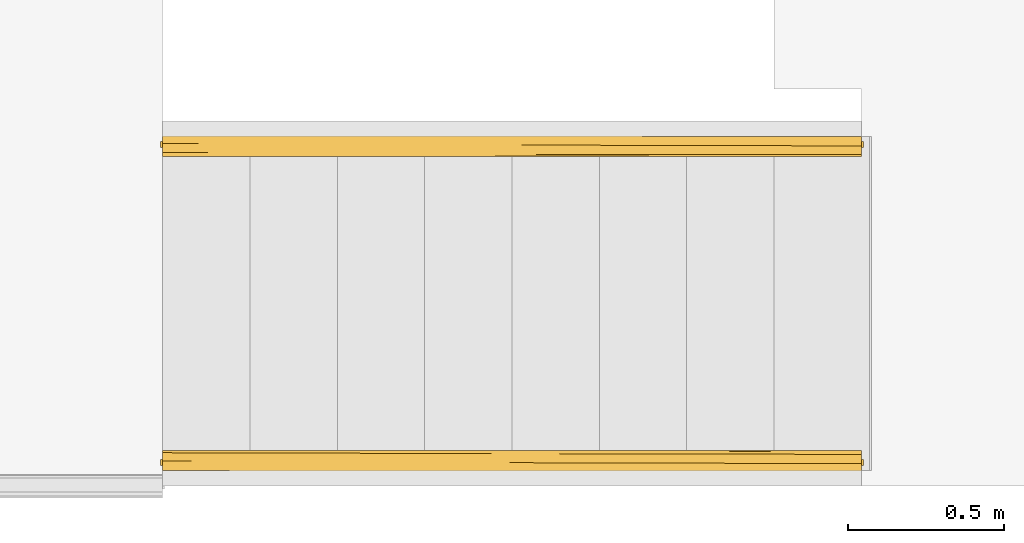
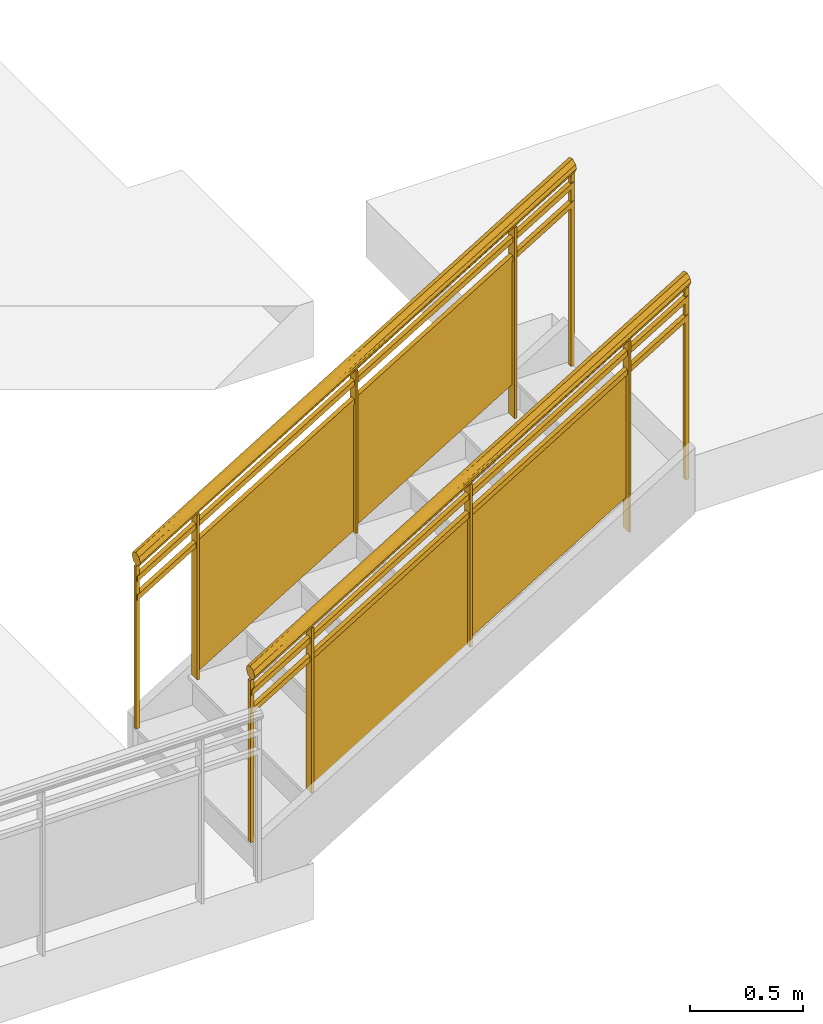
# One storey, part 4 of 4: 2 railings, 1 element without a shape of its own.
"""IFC2X3 building model written with IfcOpenShell, lengths in feet."""

from ifc_helpers import new_model, entity, si_unit, converted_unit, derived_unit, direction, frame, origin, place, context, subcontext, project, spatial, faceted_brep, material, material_list, element, aggregate, save


model = new_model("IFC2X3")

# Units and contexts
model_context = context("Model", 3, precision=0.0001, world=origin(), true_north=direction((6.12303176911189e-17, 1.0)))
body_context = subcontext(model_context, "Body", "Model", "MODEL_VIEW")
ifc_project = project(units=[converted_unit("LENGTHUNIT", "FOOT", entity("IfcRatioMeasure", 0.3048), si_unit("LENGTHUNIT", "METRE"), dimensions=[1, 0, 0, 0, 0, 0, 0]), converted_unit("AREAUNIT", "SQUARE FOOT", entity("IfcRatioMeasure", 0.09290304), si_unit("AREAUNIT", "SQUARE_METRE"), dimensions=[2, 0, 0, 0, 0, 0, 0]), converted_unit("VOLUMEUNIT", "CUBIC FOOT", entity("IfcRatioMeasure", 0.028316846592), si_unit("VOLUMEUNIT", "CUBIC_METRE"), dimensions=[3, 0, 0, 0, 0, 0, 0]), converted_unit("PLANEANGLEUNIT", "DEGREE", entity("IfcRatioMeasure", 0.0174532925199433), si_unit("PLANEANGLEUNIT", "RADIAN"), dimensions=[0, 0, 0, 0, 0, 0, 0]), si_unit("MASSUNIT", "GRAM", prefix="KILO"), derived_unit("MASSDENSITYUNIT", [(si_unit("MASSUNIT", "GRAM", prefix="KILO"), 1), (si_unit("LENGTHUNIT", "METRE"), -3)]), si_unit("TIMEUNIT", "SECOND"), si_unit("FREQUENCYUNIT", "HERTZ"), si_unit("THERMODYNAMICTEMPERATUREUNIT", "DEGREE_CELSIUS"), derived_unit("THERMALTRANSMITTANCEUNIT", [(si_unit("MASSUNIT", "GRAM", prefix="KILO"), 1), (si_unit("THERMODYNAMICTEMPERATUREUNIT", "KELVIN"), -1), (si_unit("TIMEUNIT", "SECOND"), -3)]), derived_unit("VOLUMETRICFLOWRATEUNIT", [(si_unit("LENGTHUNIT", "METRE"), 3), (si_unit("TIMEUNIT", "SECOND"), -1)]), si_unit("ELECTRICCURRENTUNIT", "AMPERE"), si_unit("ELECTRICVOLTAGEUNIT", "VOLT"), si_unit("POWERUNIT", "WATT"), si_unit("FORCEUNIT", "NEWTON"), si_unit("ILLUMINANCEUNIT", "LUX"), si_unit("LUMINOUSFLUXUNIT", "LUMEN"), si_unit("LUMINOUSINTENSITYUNIT", "CANDELA"), derived_unit("USERDEFINED", [(si_unit("MASSUNIT", "GRAM", prefix="KILO"), -1), (si_unit("LENGTHUNIT", "METRE"), -2), (si_unit("TIMEUNIT", "SECOND"), 3), (si_unit("LUMINOUSFLUXUNIT", "LUMEN"), 1)]), derived_unit("LINEARVELOCITYUNIT", [(si_unit("LENGTHUNIT", "METRE"), 1), (si_unit("TIMEUNIT", "SECOND"), -1)]), si_unit("PRESSUREUNIT", "PASCAL"), derived_unit("USERDEFINED", [(si_unit("LENGTHUNIT", "METRE"), -2), (si_unit("MASSUNIT", "GRAM", prefix="KILO"), 1), (si_unit("TIMEUNIT", "SECOND"), -2)])], contexts=[model_context])

# Site, building, storey
site_placement = place(None, origin())
site = spatial("IfcSite", under=ifc_project, at=site_placement, Name="Default", CompositionType="ELEMENT")
building_placement = place(site_placement, origin())
building = spatial("IfcBuilding", under=site, at=building_placement, CompositionType="ELEMENT")
storey_placement = place(building_placement, frame((0.0, 0.0, 35.0)))
storey = spatial("IfcBuildingStorey", under=building, at=storey_placement, Name="L 6", CompositionType="ELEMENT", Elevation=34.9999999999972)

# Stair, railings
stair_placement = place(storey_placement, origin())
stair = element("IfcStair", 1, at=stair_placement, inside=storey, Name="Assembled Stair:Stair", ObjectType="Assembled Stair:7\" max riser 11\" tread", ShapeType="NOTDEFINED")
ifc_material_1 = material(Name="Glass")
ifc_material_2 = material(Name="alum - color")
ifc_material_list_1 = material_list([ifc_material_1, ifc_material_2])
railing_1_placement = place(stair_placement, frame((-29.0126627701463, -11.8838750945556, 0.55555555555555)))
railing_1 = element("IfcRailing", 2, at=railing_1_placement, material=ifc_material_list_1, Name="Railing:Glass Panel - Bottom Fill", ObjectType="Railing:Glass Panel - Bottom Fill", PredefinedType="NOTDEFINED", context=body_context, shape_type="Brep", body=[
    faceted_brep([(1.04166666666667, 0.213567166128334, 3.50850232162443), (1.04166666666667, 0.0469004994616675, 3.50850232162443), (1.04166666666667, 0.0469004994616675, 0.555555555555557), (1.04166666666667, 0.213567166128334, 0.555555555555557), (1.0, 0.213567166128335, 3.4832497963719), (1.0, 0.213567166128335, 0.555555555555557), (1.0, 0.0469004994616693, 3.4832497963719), (1.0, 0.0469004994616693, 0.555555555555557)], [[[0, 1, 2, 3]], [[4, 0, 3, 5]], [[6, 4, 5, 7]], [[1, 6, 7, 2]], [[1, 0, 4, 6]], [[3, 2, 7, 5]]]),
    faceted_brep([(3.6875, 0.108793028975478, 2.25252525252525), (3.6875, 0.108793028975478, 4.50683388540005), (1.02083333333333, 0.10879302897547, 2.89067226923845), (1.02083333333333, 0.10879302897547, 0.636363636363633), (3.6875, 0.129626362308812, 2.25252525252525), (1.02083333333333, 0.129626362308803, 0.636363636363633), (1.02083333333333, 0.129626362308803, 2.89067226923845), (3.6875, 0.129626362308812, 4.50683388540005)], [[[0, 1, 2, 3]], [[4, 5, 6, 7]], [[1, 0, 4, 7]], [[2, 1, 7, 6]], [[3, 2, 6, 5]], [[0, 3, 5, 4]]]),
    faceted_brep([(3.70833333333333, 0.213567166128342, 5.12466393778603), (3.70833333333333, 0.0469004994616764, 5.12466393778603), (3.70833333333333, 0.0469004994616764, 2.22222222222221), (3.70833333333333, 0.213567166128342, 2.22222222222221), (3.66666666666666, 0.213567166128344, 5.09941141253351), (3.66666666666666, 0.213567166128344, 2.22222222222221), (3.66666666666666, 0.0469004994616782, 5.09941141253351), (3.66666666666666, 0.0469004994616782, 2.22222222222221)], [[[0, 1, 2, 3]], [[4, 0, 3, 5]], [[6, 4, 5, 7]], [[1, 6, 7, 2]], [[1, 0, 4, 6]], [[3, 2, 7, 5]]]),
    faceted_brep([(6.35416666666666, 0.108793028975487, 3.91919191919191), (6.35416666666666, 0.108793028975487, 6.12299550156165), (3.6875, 0.108793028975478, 4.50683388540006), (3.6875, 0.108793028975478, 2.30303030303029), (6.35416666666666, 0.129626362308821, 3.91919191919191), (3.6875, 0.129626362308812, 2.30303030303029), (3.6875, 0.129626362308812, 4.50683388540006), (6.35416666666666, 0.129626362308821, 6.12299550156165)], [[[0, 1, 2, 3]], [[4, 5, 6, 7]], [[1, 0, 4, 7]], [[2, 1, 7, 6]], [[3, 2, 6, 5]], [[0, 3, 5, 4]]]),
    faceted_brep([(6.375, 0.21356716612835, 6.74082555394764), (6.375, 0.0469004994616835, 6.74082555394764), (6.375, 0.0469004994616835, 3.33333333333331), (6.375, 0.21356716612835, 3.33333333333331), (6.33333333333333, 0.213567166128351, 6.71557302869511), (6.33333333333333, 0.213567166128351, 3.33333333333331), (6.33333333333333, 0.0469004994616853, 6.71557302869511), (6.33333333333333, 0.0469004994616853, 3.33333333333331)], [[[0, 1, 2, 3]], [[4, 0, 3, 5]], [[6, 4, 5, 7]], [[1, 6, 7, 2]], [[1, 0, 4, 6]], [[3, 2, 7, 5]]]),
    faceted_brep([(0.0625, 0.161483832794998, 2.91506797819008), (0.0625, 0.0989838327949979, 2.91506797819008), (0.0625, 0.0989838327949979, 0.0), (0.0625, 0.161483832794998, 0.0), (0.0, 0.161483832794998, 2.87718919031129), (0.0, 0.161483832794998, 0.0), (0.0, 0.0989838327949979, 2.87718919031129), (0.0, 0.0989838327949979, 0.0)], [[[0, 1, 2, 3]], [[4, 0, 3, 5]], [[6, 4, 5, 7]], [[1, 6, 7, 2]], [[1, 0, 4, 6]], [[3, 2, 7, 5]]]),
    faceted_brep([(7.375, 0.161483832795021, 7.34688616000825), (7.375, 0.098983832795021, 7.34688616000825), (7.375, 0.098983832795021, 3.88888888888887), (7.375, 0.161483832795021, 3.88888888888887), (7.3125, 0.161483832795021, 7.30900737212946), (7.3125, 0.161483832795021, 3.88888888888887), (7.3125, 0.098983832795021, 7.30900737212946), (7.3125, 0.098983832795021, 3.88888888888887)], [[[0, 1, 2, 3]], [[4, 0, 3, 5]], [[6, 4, 5, 7]], [[1, 6, 7, 2]], [[1, 0, 4, 6]], [[3, 2, 7, 5]]]),
    faceted_brep([(7.35416666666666, 0.171900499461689, 7.15983278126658), (7.35416666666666, 0.0885671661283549, 7.15983278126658), (7.35416666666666, 0.0885671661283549, 7.06238944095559), (7.35416666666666, 0.171900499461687, 7.06238944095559), (0.0208333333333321, 0.171900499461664, 2.71538833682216), (0.0208333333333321, 0.171900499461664, 2.61794499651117), (0.0208333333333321, 0.08856716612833, 2.61794499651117), (0.0208333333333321, 0.0885671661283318, 2.71538833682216)], [[[0, 1, 2, 3]], [[4, 5, 6, 7]], [[1, 0, 4, 7]], [[2, 1, 7, 6]], [[3, 2, 6, 5]], [[0, 3, 5, 4]]]),
    faceted_brep([(7.35416666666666, 0.171900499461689, 6.82649944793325), (7.35416666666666, 0.0885671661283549, 6.82649944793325), (7.35416666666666, 0.0885671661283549, 6.72905610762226), (7.35416666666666, 0.171900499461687, 6.72905610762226), (0.0208333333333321, 0.171900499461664, 2.38205500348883), (0.0208333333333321, 0.171900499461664, 2.28461166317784), (0.0208333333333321, 0.08856716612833, 2.28461166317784), (0.0208333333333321, 0.0885671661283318, 2.38205500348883)], [[[0, 1, 2, 3]], [[4, 5, 6, 7]], [[1, 0, 4, 7]], [[2, 1, 7, 6]], [[3, 2, 6, 5]], [[0, 3, 5, 4]]]),
    faceted_brep([(0.0208333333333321, 0.0465925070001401, 3.08146632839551), (0.0208333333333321, 0.0949461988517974, 3.09524477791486), (0.0208333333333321, 0.143299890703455, 3.10902322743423), (0.0208333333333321, 0.187330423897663, 3.08672922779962), (0.0208333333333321, 0.231360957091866, 3.06443522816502), (0.0208333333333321, 0.243297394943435, 3.03221761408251), (0.0208333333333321, 0.255233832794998, 3.0), (0.0208333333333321, 0.234554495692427, 2.95926683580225), (0.0208333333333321, 0.213875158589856, 2.91853367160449), (0.0208333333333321, 0.165521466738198, 2.90475522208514), (0.0208333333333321, 0.141344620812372, 2.89786599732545), (0.0208333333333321, 0.117167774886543, 2.89097677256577), (0.0208333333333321, 0.0731372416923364, 2.91327077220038), (0.0208333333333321, 0.02910670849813, 2.93556477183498), (0.0208333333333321, 0.0171702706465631, 2.9677823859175), (0.0208333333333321, 0.00523383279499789, 3.0), (0.0208333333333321, 0.0259131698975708, 3.04073316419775), (7.35416666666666, 0.0259131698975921, 7.40371128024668), (7.35416666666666, 0.0465925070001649, 7.36297811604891), (7.35416666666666, 0.0949461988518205, 7.34919966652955), (7.35416666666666, 0.143299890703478, 7.33542121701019), (7.35416666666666, 0.187330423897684, 7.35771521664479), (7.35416666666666, 0.231360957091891, 7.3800092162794), (7.35416666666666, 0.243297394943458, 7.41222683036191), (7.35416666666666, 0.255233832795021, 7.44444444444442), (7.35416666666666, 0.244378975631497, 7.46582582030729), (7.35416666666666, 0.23455449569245, 7.48517760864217), (7.35416666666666, 0.213875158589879, 7.52591077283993), (7.35416666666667, 0.16552146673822, 7.53968922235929), (7.35416666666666, 0.117167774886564, 7.55346767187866), (7.35416666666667, 0.0951525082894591, 7.54232067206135), (7.35416666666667, 0.0731372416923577, 7.53117367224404), (7.35416666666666, 0.0291067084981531, 7.50887967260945), (7.35416666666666, 0.0171702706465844, 7.47666205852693), (7.35416666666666, 0.00523383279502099, 7.44444444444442), (3.70029054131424, 0.246755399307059, 5.19028869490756), (3.87247818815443, 0.177511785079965, 5.23284993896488), (3.91578387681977, 0.207600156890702, 5.27447257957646), (3.07871506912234, 0.231313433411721, 4.7887691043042), (3.15949151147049, 0.255233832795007, 4.90221707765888), (4.21550890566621, 0.25523383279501, 5.54222761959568), (4.04114830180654, 0.0629732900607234, 5.34415364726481), (3.22585875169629, 0.0946029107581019, 4.83736380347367), (3.68929300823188, 0.130201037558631, 5.11368513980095), (3.72718018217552, 0.0367721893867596, 5.17347577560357), (3.44651497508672, 0.0177333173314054, 5.0283877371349), (3.15950543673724, 0.00523383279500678, 4.90222551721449), (3.54783177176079, 0.0115093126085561, 5.17187272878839), (3.33044597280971, 0.0259810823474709, 5.06630868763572), (4.14481111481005, 0.0490518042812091, 5.58273826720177), (3.68590222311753, 0.079440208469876, 5.32141906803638), (3.19149194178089, 0.251785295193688, 4.94718335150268), (3.54340951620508, 0.127144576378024, 5.24448493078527), (3.4271662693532, 0.161623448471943, 5.17055526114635), (3.59902271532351, 0.221853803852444, 5.24317359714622), (3.37926588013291, 0.241652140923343, 5.08510860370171), (4.26044448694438, 0.193327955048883, 5.66409552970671)], [[[0, 1, 2, 3, 4, 5, 6, 7, 8, 9, 10, 11, 12, 13, 14, 15, 16]], [[17, 18, 19, 20, 21, 22, 23, 24, 25, 26, 27, 28, 29, 30, 31, 32, 33, 34]], [[35, 7, 6]], [[9, 8, 36, 10]], [[22, 37, 38]], [[37, 36, 8]], [[21, 36, 37]], [[35, 6, 39, 40]], [[41, 42, 19]], [[38, 7, 35]], [[19, 42, 43]], [[44, 41, 18]], [[13, 45, 14]], [[8, 38, 37]], [[44, 12, 41]], [[38, 8, 7]], [[11, 43, 42]], [[17, 34, 46]], [[35, 23, 22]], [[11, 10, 43]], [[40, 24, 23]], [[21, 37, 22]], [[36, 21, 20]], [[36, 20, 43]], [[36, 43, 10]], [[43, 20, 19]], [[42, 12, 11]], [[12, 42, 41]], [[13, 12, 44]], [[18, 41, 19]], [[46, 15, 14]], [[44, 18, 17]], [[17, 45, 44]], [[38, 35, 22]], [[45, 17, 46]], [[23, 35, 40]], [[44, 45, 13]], [[14, 45, 46]], [[16, 47, 48]], [[0, 48, 49]], [[49, 31, 50]], [[31, 30, 50]], [[51, 26, 25]], [[2, 52, 53]], [[54, 27, 26]], [[54, 55, 4]], [[26, 51, 55]], [[47, 16, 15]], [[54, 26, 55]], [[5, 4, 55]], [[25, 24, 40, 39]], [[56, 54, 3]], [[56, 3, 53]], [[50, 0, 49]], [[27, 54, 56]], [[51, 39, 6]], [[53, 52, 28]], [[54, 4, 3]], [[56, 28, 27]], [[28, 56, 53]], [[5, 55, 51]], [[29, 28, 52]], [[2, 53, 3]], [[30, 29, 52]], [[52, 2, 1]], [[1, 0, 50]], [[52, 50, 30]], [[1, 50, 52]], [[49, 32, 31]], [[32, 49, 48]], [[33, 48, 47]], [[16, 48, 0]], [[46, 34, 47, 15]], [[33, 32, 48]], [[33, 47, 34]], [[5, 51, 6]], [[39, 51, 25]]]),
])
ifc_material_list_2 = material_list([ifc_material_1, ifc_material_2])
railing_2_placement = place(stair_placement, frame((-29.0126627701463, -15.2172084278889, 0.55555555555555)))
railing_2 = element("IfcRailing", 3, at=railing_2_placement, material=ifc_material_list_2, Name="Railing:Glass Panel - Bottom Fill", ObjectType="Railing:Glass Panel - Bottom Fill", PredefinedType="NOTDEFINED", context=body_context, shape_type="Brep", body=[
    faceted_brep([(1.04166666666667, 0.0469004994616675, 3.50850232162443), (1.04166666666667, 0.0469004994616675, 0.555555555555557), (1.04166666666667, 0.213567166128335, 0.555555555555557), (1.04166666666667, 0.213567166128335, 3.50850232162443), (1.0, 0.0469004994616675, 3.4832497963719), (1.0, 0.0469004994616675, 0.555555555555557), (1.0, 0.213567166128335, 3.4832497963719), (1.0, 0.213567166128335, 0.555555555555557)], [[[0, 1, 2, 3]], [[4, 5, 1, 0]], [[6, 7, 5, 4]], [[3, 2, 7, 6]], [[3, 6, 4, 0]], [[1, 5, 7, 2]]]),
    faceted_brep([(3.6875, 0.151674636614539, 2.25252525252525), (1.02083333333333, 0.15167463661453, 0.636363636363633), (1.02083333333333, 0.15167463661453, 2.89067226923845), (3.6875, 0.151674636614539, 4.50683388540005), (3.6875, 0.130841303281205, 2.25252525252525), (3.6875, 0.130841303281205, 4.50683388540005), (1.02083333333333, 0.130841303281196, 2.89067226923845), (1.02083333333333, 0.130841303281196, 0.636363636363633)], [[[0, 1, 2, 3]], [[4, 5, 6, 7]], [[3, 5, 4, 0]], [[2, 6, 5, 3]], [[1, 7, 6, 2]], [[0, 4, 7, 1]]]),
    faceted_brep([(3.70833333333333, 0.0469004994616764, 5.12466393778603), (3.70833333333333, 0.0469004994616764, 2.22222222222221), (3.70833333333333, 0.213567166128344, 2.22222222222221), (3.70833333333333, 0.213567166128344, 5.12466393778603), (3.66666666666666, 0.0469004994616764, 5.09941141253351), (3.66666666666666, 0.0469004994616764, 2.22222222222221), (3.66666666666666, 0.213567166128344, 5.09941141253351), (3.66666666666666, 0.213567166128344, 2.22222222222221)], [[[0, 1, 2, 3]], [[4, 5, 1, 0]], [[6, 7, 5, 4]], [[3, 2, 7, 6]], [[3, 6, 4, 0]], [[1, 5, 7, 2]]]),
    faceted_brep([(6.35416666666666, 0.151674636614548, 3.91919191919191), (3.6875, 0.151674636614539, 2.30303030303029), (3.6875, 0.151674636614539, 4.50683388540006), (6.35416666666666, 0.151674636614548, 6.12299550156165), (6.35416666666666, 0.130841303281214, 3.91919191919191), (6.35416666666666, 0.130841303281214, 6.12299550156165), (3.6875, 0.130841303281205, 4.50683388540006), (3.6875, 0.130841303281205, 2.30303030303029)], [[[0, 1, 2, 3]], [[4, 5, 6, 7]], [[3, 5, 4, 0]], [[2, 6, 5, 3]], [[1, 7, 6, 2]], [[0, 4, 7, 1]]]),
    faceted_brep([(6.375, 0.0469004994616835, 6.74082555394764), (6.375, 0.0469004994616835, 3.33333333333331), (6.375, 0.213567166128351, 3.33333333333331), (6.375, 0.213567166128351, 6.74082555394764), (6.33333333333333, 0.0469004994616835, 6.71557302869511), (6.33333333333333, 0.0469004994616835, 3.33333333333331), (6.33333333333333, 0.213567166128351, 6.71557302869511), (6.33333333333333, 0.213567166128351, 3.33333333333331)], [[[0, 1, 2, 3]], [[4, 5, 1, 0]], [[6, 7, 5, 4]], [[3, 2, 7, 6]], [[3, 6, 4, 0]], [[1, 5, 7, 2]]]),
    faceted_brep([(0.0625, 0.0989838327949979, 2.91506797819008), (0.0625, 0.0989838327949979, 0.0), (0.0625, 0.161483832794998, 0.0), (0.0625, 0.161483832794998, 2.91506797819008), (0.0, 0.0989838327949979, 2.87718919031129), (0.0, 0.0989838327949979, 0.0), (0.0, 0.161483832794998, 2.87718919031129), (0.0, 0.161483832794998, 0.0)], [[[0, 1, 2, 3]], [[4, 5, 1, 0]], [[6, 7, 5, 4]], [[3, 2, 7, 6]], [[3, 6, 4, 0]], [[1, 5, 7, 2]]]),
    faceted_brep([(7.375, 0.098983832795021, 7.34688616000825), (7.375, 0.098983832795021, 3.88888888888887), (7.375, 0.161483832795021, 3.88888888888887), (7.375, 0.161483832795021, 7.34688616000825), (7.3125, 0.098983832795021, 7.30900737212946), (7.3125, 0.098983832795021, 3.88888888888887), (7.3125, 0.161483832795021, 7.30900737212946), (7.3125, 0.161483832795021, 3.88888888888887)], [[[0, 1, 2, 3]], [[4, 5, 1, 0]], [[6, 7, 5, 4]], [[3, 2, 7, 6]], [[3, 6, 4, 0]], [[1, 5, 7, 2]]]),
    faceted_brep([(7.35416666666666, 0.0885671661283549, 7.15983278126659), (7.35416666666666, 0.0885671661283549, 7.0623894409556), (7.35416666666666, 0.171900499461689, 7.0623894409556), (7.35416666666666, 0.171900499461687, 7.15983278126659), (0.0208333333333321, 0.08856716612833, 2.71538833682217), (0.0208333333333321, 0.171900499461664, 2.71538833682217), (0.0208333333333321, 0.171900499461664, 2.61794499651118), (0.0208333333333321, 0.0885671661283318, 2.61794499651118)], [[[0, 1, 2, 3]], [[4, 5, 6, 7]], [[1, 0, 4, 7]], [[2, 1, 7, 6]], [[3, 2, 6, 5]], [[0, 3, 5, 4]]]),
    faceted_brep([(7.35416666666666, 0.0885671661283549, 6.82649944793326), (7.35416666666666, 0.0885671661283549, 6.72905610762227), (7.35416666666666, 0.171900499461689, 6.72905610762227), (7.35416666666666, 0.171900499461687, 6.82649944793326), (0.0208333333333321, 0.08856716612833, 2.38205500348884), (0.0208333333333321, 0.171900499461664, 2.38205500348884), (0.0208333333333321, 0.171900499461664, 2.28461166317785), (0.0208333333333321, 0.0885671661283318, 2.28461166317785)], [[[0, 1, 2, 3]], [[4, 5, 6, 7]], [[1, 0, 4, 7]], [[2, 1, 7, 6]], [[3, 2, 6, 5]], [[0, 3, 5, 4]]]),
    faceted_brep([(0.0208333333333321, 0.0465925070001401, 3.08146632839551), (0.0208333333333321, 0.0949461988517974, 3.09524477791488), (0.0208333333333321, 0.143299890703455, 3.10902322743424), (0.0208333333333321, 0.187330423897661, 3.08672922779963), (0.0208333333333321, 0.231360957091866, 3.06443522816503), (0.0208333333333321, 0.243297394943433, 3.03221761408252), (0.0208333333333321, 0.255233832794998, 3.0), (0.0208333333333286, 0.234554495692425, 2.95926683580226), (0.0208333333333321, 0.213875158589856, 2.9185336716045), (0.020833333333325, 0.165521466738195, 2.90475522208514), (0.020833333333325, 0.141344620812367, 2.89786599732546), (0.0208333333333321, 0.117167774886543, 2.89097677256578), (0.0208333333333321, 0.0731372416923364, 2.91327077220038), (0.0208333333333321, 0.02910670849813, 2.93556477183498), (0.0208333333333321, 0.0171702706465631, 2.9677823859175), (0.0208333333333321, 0.00523383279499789, 3.0), (0.0208333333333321, 0.0259131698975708, 3.04073316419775), (7.35416666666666, 0.0259131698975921, 7.40371128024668), (7.35416666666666, 0.0465925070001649, 7.36297811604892), (7.35416666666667, 0.0949461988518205, 7.34919966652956), (7.35416666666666, 0.143299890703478, 7.3354212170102), (7.35416666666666, 0.187330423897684, 7.3577152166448), (7.35416666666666, 0.231360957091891, 7.3800092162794), (7.35416666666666, 0.243297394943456, 7.41222683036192), (7.35416666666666, 0.255233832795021, 7.44444444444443), (7.35416666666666, 0.244378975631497, 7.46582582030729), (7.35416666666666, 0.23455449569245, 7.48517760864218), (7.35416666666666, 0.213875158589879, 7.52591077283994), (7.35416666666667, 0.16552146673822, 7.53968922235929), (7.35416666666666, 0.117167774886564, 7.55346767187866), (7.35416666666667, 0.0951525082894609, 7.54232067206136), (7.35416666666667, 0.0731372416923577, 7.53117367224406), (7.35416666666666, 0.0291067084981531, 7.50887967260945), (7.35416666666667, 0.0171702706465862, 7.47666205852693), (7.35416666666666, 0.00523383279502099, 7.44444444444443), (3.70029054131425, 0.246755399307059, 5.19028869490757), (3.87247818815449, 0.177511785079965, 5.23284993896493), (3.91578387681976, 0.207600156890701, 5.27447257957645), (3.07871506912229, 0.231313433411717, 4.78876910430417), (3.15950634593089, 0.25523383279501, 4.90222606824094), (4.21550890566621, 0.255233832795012, 5.54222761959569), (4.0411483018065, 0.0629732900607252, 5.3441536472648), (3.22585875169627, 0.0946029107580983, 4.83736380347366), (3.6892930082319, 0.13020103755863, 5.11368513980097), (3.72718018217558, 0.0367721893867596, 5.17347577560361), (3.44651497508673, 0.0177333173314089, 5.0283877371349), (3.15948173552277, 0.00523383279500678, 4.90221115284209), (3.54783177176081, 0.0115093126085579, 5.17187272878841), (3.33044597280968, 0.0259810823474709, 5.0663086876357), (4.14481111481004, 0.0490518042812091, 5.58273826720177), (3.68590222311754, 0.079440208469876, 5.32141906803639), (3.19149194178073, 0.25178529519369, 4.94718335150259), (3.54340951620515, 0.127144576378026, 5.24448493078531), (3.42716626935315, 0.161623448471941, 5.17055526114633), (3.59902271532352, 0.221853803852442, 5.24317359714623), (3.37926588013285, 0.241652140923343, 5.08510860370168), (4.26044448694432, 0.193327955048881, 5.66409552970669)], [[[0, 1, 2, 3, 4, 5, 6, 7, 8, 9, 10, 11, 12, 13, 14, 15, 16]], [[17, 18, 19, 20, 21, 22, 23, 24, 25, 26, 27, 28, 29, 30, 31, 32, 33, 34]], [[35, 7, 6]], [[9, 8, 36, 10]], [[22, 37, 38]], [[37, 36, 8]], [[21, 36, 37]], [[35, 6, 39, 40]], [[41, 42, 19]], [[38, 7, 35]], [[19, 42, 43]], [[44, 41, 18]], [[13, 45, 14]], [[8, 38, 37]], [[44, 12, 41]], [[38, 8, 7]], [[11, 43, 42]], [[17, 34, 46]], [[35, 23, 22]], [[11, 10, 43]], [[40, 24, 23]], [[21, 37, 22]], [[36, 21, 20]], [[36, 20, 43]], [[36, 43, 10]], [[43, 20, 19]], [[42, 12, 11]], [[12, 42, 41]], [[13, 12, 44]], [[18, 41, 19]], [[46, 15, 14]], [[44, 18, 17]], [[17, 45, 44]], [[38, 35, 22]], [[45, 17, 46]], [[23, 35, 40]], [[44, 45, 13]], [[14, 45, 46]], [[16, 47, 48]], [[0, 48, 49]], [[49, 31, 50]], [[31, 30, 50]], [[51, 26, 25]], [[2, 52, 53]], [[54, 27, 26]], [[54, 55, 4]], [[26, 51, 55]], [[47, 16, 15]], [[54, 26, 55]], [[5, 4, 55]], [[25, 24, 40, 39]], [[56, 54, 3]], [[56, 3, 53]], [[50, 0, 49]], [[27, 54, 56]], [[51, 39, 6]], [[53, 52, 28]], [[54, 4, 3]], [[56, 28, 27]], [[28, 56, 53]], [[5, 55, 51]], [[29, 28, 52]], [[2, 53, 3]], [[30, 29, 52]], [[52, 2, 1]], [[1, 0, 50]], [[52, 50, 30]], [[1, 50, 52]], [[49, 32, 31]], [[32, 49, 48]], [[33, 48, 47]], [[16, 48, 0]], [[46, 34, 47, 15]], [[33, 32, 48]], [[33, 47, 34]], [[5, 51, 6]], [[39, 51, 25]]]),
])
aggregate(stair, [railing_1, railing_2])

save(model, "model.ifc")
